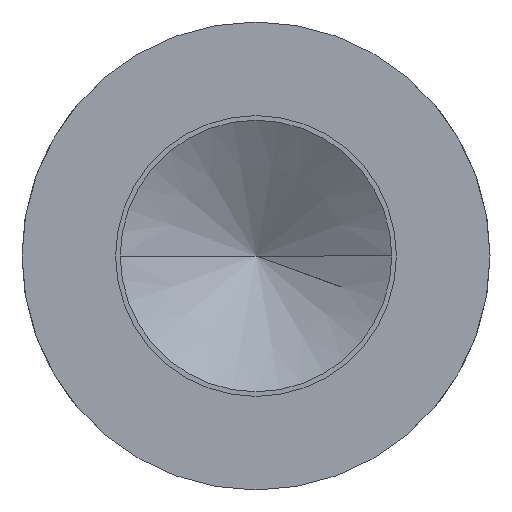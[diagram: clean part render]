
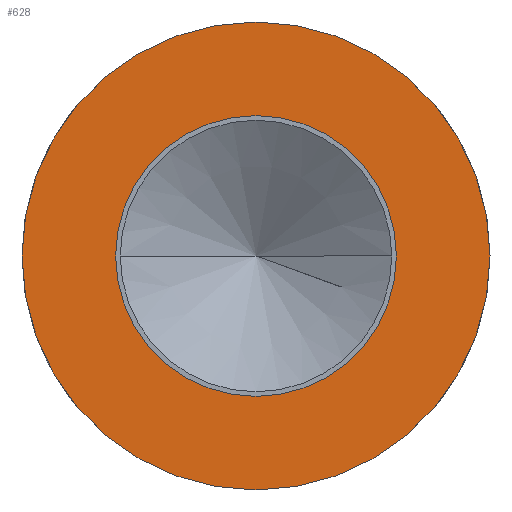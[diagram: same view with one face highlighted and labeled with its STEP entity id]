
A CAD part, left-side view. The second image highlights one B-rep face of the part: STEP entity #628.
In plain terms, the highlighted planar face has unit normal (-1, 0, 0).
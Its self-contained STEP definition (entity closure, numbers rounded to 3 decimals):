
#7 = DIRECTION ( 'NONE',  ( 1., 0., 0. ) ) ;
#8 = EDGE_LOOP ( 'NONE', ( #559, #449 ) ) ;
#64 = CIRCLE ( 'NONE', #530, 5. ) ;
#67 = AXIS2_PLACEMENT_3D ( 'NONE', #479, #485, #145 ) ;
#89 = PLANE ( 'NONE',  #67 ) ;
#127 = DIRECTION ( 'NONE',  ( 0., 1., 0. ) ) ;
#145 = DIRECTION ( 'NONE',  ( 0., -1., 0. ) ) ;
#174 = DIRECTION ( 'NONE',  ( 0., 1., 0. ) ) ;
#204 = CIRCLE ( 'NONE', #329, 3. ) ;
#238 = DIRECTION ( 'NONE',  ( 1., 0., 0. ) ) ;
#248 = CARTESIAN_POINT ( 'NONE',  ( -70., -5., 0. ) ) ;
#296 = EDGE_CURVE ( 'NONE', #597, #419, #498, .T. ) ;
#329 = AXIS2_PLACEMENT_3D ( 'NONE', #462, #576, #127 ) ;
#366 = AXIS2_PLACEMENT_3D ( 'NONE', #494, #442, #645 ) ;
#368 = CIRCLE ( 'NONE', #366, 3. ) ;
#373 = CARTESIAN_POINT ( 'NONE',  ( -70., 5., 0. ) ) ;
#391 = AXIS2_PLACEMENT_3D ( 'NONE', #552, #7, #174 ) ;
#409 = EDGE_CURVE ( 'NONE', #432, #495, #368, .T. ) ;
#419 = VERTEX_POINT ( 'NONE', #248 ) ;
#432 = VERTEX_POINT ( 'NONE', #688 ) ;
#434 = ORIENTED_EDGE ( 'NONE', *, *, #543, .T. ) ;
#442 = DIRECTION ( 'NONE',  ( 1., 0., 0. ) ) ;
#443 = FACE_BOUND ( 'NONE', #486, .T. ) ;
#449 = ORIENTED_EDGE ( 'NONE', *, *, #456, .F. ) ;
#454 = ORIENTED_EDGE ( 'NONE', *, *, #409, .T. ) ;
#456 = EDGE_CURVE ( 'NONE', #419, #597, #64, .T. ) ;
#462 = CARTESIAN_POINT ( 'NONE',  ( -70., 0., 0. ) ) ;
#479 = CARTESIAN_POINT ( 'NONE',  ( -70., 5., 0. ) ) ;
#485 = DIRECTION ( 'NONE',  ( -1., 0., 0. ) ) ;
#486 = EDGE_LOOP ( 'NONE', ( #454, #434 ) ) ;
#494 = CARTESIAN_POINT ( 'NONE',  ( -70., 0., 0. ) ) ;
#495 = VERTEX_POINT ( 'NONE', #684 ) ;
#496 = FACE_OUTER_BOUND ( 'NONE', #8, .T. ) ;
#498 = CIRCLE ( 'NONE', #391, 5. ) ;
#530 = AXIS2_PLACEMENT_3D ( 'NONE', #689, #238, #629 ) ;
#543 = EDGE_CURVE ( 'NONE', #495, #432, #204, .T. ) ;
#552 = CARTESIAN_POINT ( 'NONE',  ( -70., 0., 0. ) ) ;
#559 = ORIENTED_EDGE ( 'NONE', *, *, #296, .F. ) ;
#576 = DIRECTION ( 'NONE',  ( 1., 0., 0. ) ) ;
#597 = VERTEX_POINT ( 'NONE', #373 ) ;
#628 = ADVANCED_FACE ( 'NONE', ( #443, #496 ), #89, .T. ) ;
#629 = DIRECTION ( 'NONE',  ( 0., 1., 0. ) ) ;
#645 = DIRECTION ( 'NONE',  ( 0., 1., 0. ) ) ;
#684 = CARTESIAN_POINT ( 'NONE',  ( -70., -3., 0. ) ) ;
#688 = CARTESIAN_POINT ( 'NONE',  ( -70., 3., 0. ) ) ;
#689 = CARTESIAN_POINT ( 'NONE',  ( -70., 0., 0. ) ) ;
